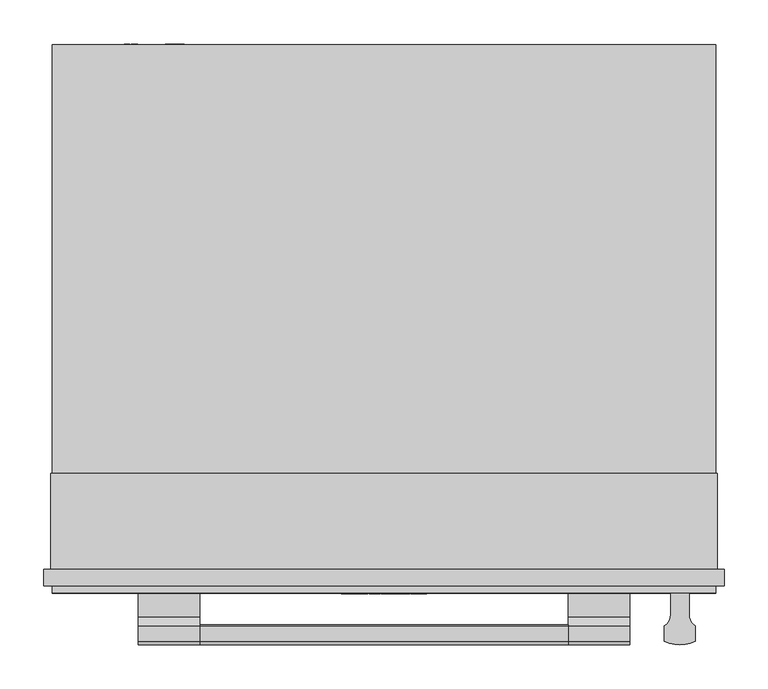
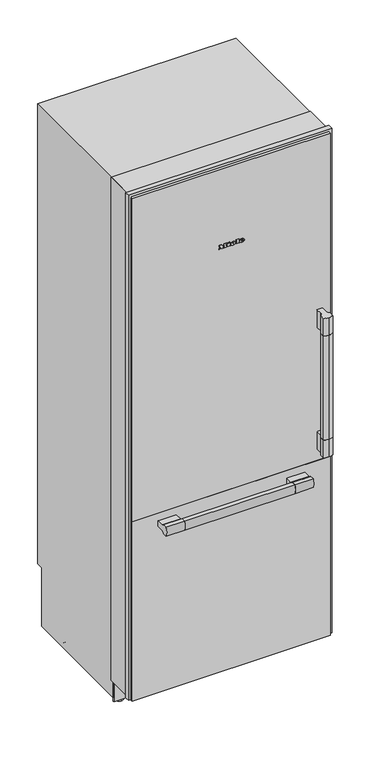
"""IFC4 building model written with IfcOpenShell, lengths in millimetres: proxy geometry, 10745800_USA_KF2811SF : 38281111_USA_10745800_KF2811SF."""

from ifc_helpers import new_model, si_unit, point, frame, frame_2d, origin, place, context, project, spatial, polyline, circle_curve, ellipse_curve, trimmed, segment, composite_curve, outline, extrude, faceted_brep, source, transform, mapped, element, save
from ifc_brep_helpers import plane_surface, cylinder_surface, revolved_surface, extruded_surface, advanced_brep


def specialty_equipment_4a33d1fb(model_context):
    return source(origin(), model_context, "Body", "SolidModel", [
        extrude(outline(polyline([(247.0, -133.0), (205.0, -133.0), (205.0, -118.5), (90.0, -118.5), (90.0, -105.5), (205.0, -105.5), (205.0, -91.0), (247.0, -91.0), (247.0, -133.0)])), frame((0.0, 21.0, 0.0), z_axis=(0.0, 1.0, 0.0), x_axis=(0.0, 0.0, 1.0)), (0.0, 0.0, 1.0), 54.0),
        extrude(outline(polyline([(-367.0, 68.0), (367.0, 68.0), (367.0, 21.0), (-367.0, 21.0), (-367.0, 68.0)])), frame((0.0, 0.0, 883.0), z_axis=(0.0, 0.0, 1.0), x_axis=(1.0, 0.0, 0.0)), (0.0, 0.0, 1.0), 1153.0),
        extrude(outline(polyline([(-373.0, 68.0), (373.0, 68.0), (373.0, 21.0), (-373.0, 21.0), (-373.0, 68.0)])), frame((0.0, 0.0, 247.0), z_axis=(0.0, 0.0, 1.0), x_axis=(1.0, 0.0, 0.0)), (0.0, 0.0, 1.0), 562.0),
        extrude(outline(polyline([(-213.5, 50.0), (213.5, 50.0), (213.5, 21.0), (-213.5, 21.0), (-213.5, 50.0)])), frame((0.0, 0.0, 2036.0), z_axis=(0.0, 0.0, 1.0), x_axis=(1.0, 0.0, 0.0)), (0.0, 0.0, 1.0), 56.0),
        extrude(outline(composite_curve([segment(trimmed(circle_curve(frame_2d((310.9285714, -24.4390599)), 15.5714286), [point((319.5, -37.4390599))], [point((326.5, -24.4390599))], True, "CARTESIAN"), True, "CONTINUOUS"), segment(polyline([(326.5, -24.4390599), (326.5, 0.0), (347.5, 0.0), (347.5, -24.4390599)]), True, "CONTINUOUS"), segment(trimmed(circle_curve(frame_2d((363.0714286, -24.4390599)), 15.5714286), [point((347.5, -24.4390599))], [point((354.5, -37.4390599))], True, "CARTESIAN"), True, "CONTINUOUS"), segment(polyline([(354.5, -37.4390599), (354.5, -55.0)]), True, "CONTINUOUS"), segment(trimmed(circle_curve(frame_2d((337.0, -18.71875)), 40.28125), [point((354.5, -55.0))], [point((337.0, -59.0))], False, "CARTESIAN"), True, "CONTINUOUS"), segment(trimmed(circle_curve(frame_2d((337.0, -18.71875)), 40.28125), [point((337.0, -59.0))], [point((319.5, -55.0))], False, "CARTESIAN"), True, "CONTINUOUS"), segment(polyline([(319.5, -55.0), (319.5, -37.4390599)]), True, "CONTINUOUS")], self_intersect=False)), frame((0.0, 0.0, 858.0), z_axis=(0.0, 0.0, 1.0), x_axis=(1.0, 0.0, 0.0)), (0.0, 0.0, 1.0), 70.0),
        extrude(outline(composite_curve([segment(trimmed(circle_curve(frame_2d((310.9285714, -24.4390599)), 15.5714286), [point((319.5, -37.4390599))], [point((326.5, -24.4390599))], True, "CARTESIAN"), True, "CONTINUOUS"), segment(polyline([(326.5, -24.4390599), (326.5, 0.0), (347.5, 0.0), (347.5, -24.4390599)]), True, "CONTINUOUS"), segment(trimmed(circle_curve(frame_2d((363.0714286, -24.4390599)), 15.5714286), [point((347.5, -24.4390599))], [point((354.5, -37.4390599))], True, "CARTESIAN"), True, "CONTINUOUS"), segment(polyline([(354.5, -37.4390599), (354.5, -55.0)]), True, "CONTINUOUS"), segment(trimmed(circle_curve(frame_2d((337.0, -18.71875)), 40.28125), [point((354.5, -55.0))], [point((337.0, -59.0))], False, "CARTESIAN"), True, "CONTINUOUS"), segment(trimmed(circle_curve(frame_2d((337.0, -18.71875)), 40.28125), [point((337.0, -59.0))], [point((319.5, -55.0))], False, "CARTESIAN"), True, "CONTINUOUS"), segment(polyline([(319.5, -55.0), (319.5, -37.4390599)]), True, "CONTINUOUS")], self_intersect=False)), frame((0.0, 0.0, 1348.0), z_axis=(0.0, 0.0, 1.0), x_axis=(1.0, 0.0, 0.0)), (0.0, 0.0, 1.0), 70.0),
        extrude(outline(polyline([(-378.0, 21.0), (378.0, 21.0), (378.0, 0.0), (-378.0, 0.0), (-378.0, 21.0)])), frame((0.0, 0.0, 812.0), z_axis=(0.0, 0.0, 1.0), x_axis=(1.0, 0.0, 0.0)), (0.0, 0.0, 1.0), 1299.0),
        extrude(outline(composite_curve([segment(trimmed(circle_curve(frame_2d((310.9285714, -24.4390599)), 15.5714286), [point((319.5, -37.4390599))], [point((321.3599688, -36.0))], True, "CARTESIAN"), True, "CONTINUOUS"), segment(polyline([(321.3599688, -36.0), (352.6400312, -36.0)]), True, "CONTINUOUS"), segment(trimmed(circle_curve(frame_2d((363.0714286, -24.4390599)), 15.5714286), [point((352.6400312, -36.0))], [point((354.5, -37.4390599))], True, "CARTESIAN"), True, "CONTINUOUS"), segment(polyline([(354.5, -37.4390599), (354.5, -55.0)]), True, "CONTINUOUS"), segment(trimmed(circle_curve(frame_2d((337.0, -18.71875)), 40.28125), [point((354.5, -55.0))], [point((337.0, -59.0))], False, "CARTESIAN"), True, "CONTINUOUS"), segment(trimmed(circle_curve(frame_2d((337.0, -18.71875)), 40.28125), [point((337.0, -59.0))], [point((319.5, -55.0))], False, "CARTESIAN"), True, "CONTINUOUS"), segment(polyline([(319.5, -55.0), (319.5, -37.4390599)]), True, "CONTINUOUS")], self_intersect=False)), frame((0.0, 0.0, 928.0), z_axis=(0.0, 0.0, 1.0), x_axis=(1.0, 0.0, 0.0)), (0.0, 0.0, 1.0), 420.0),
        advanced_brep(
        [(-210.0, -37.692095, 787.5), (-210.0, -55.0, 787.5), (-210.0, -59.0, 770.0), (-210.0, -55.0, 752.5), (-210.0, -37.692095, 752.5), (-210.0, -27.0, 759.5), (-210.0, 0.0, 759.5), (-210.0, 0.0, 780.5), (-210.0, -27.0, 780.5), (-280.0, 0.0, 780.5), (-280.0, 0.0, 759.5), (-280.0, -27.0, 759.5), (-280.0, -37.692095, 752.5), (-280.0, -55.0, 752.5), (-280.0, -59.0, 770.0), (-280.0, -55.0, 787.5), (-280.0, -37.692095, 787.5), (-280.0, -27.0, 780.5)],
        [
            (0, 1),
            (1, 2, circle_curve(frame((-210.0, -18.71875, 770.0), z_axis=(1.0, 0.0, 0.0), x_axis=(0.0, 0.0, 1.0)), 40.28125)),
            (2, 3, circle_curve(frame((-210.0, -18.71875, 770.0), z_axis=(1.0, 0.0, 0.0), x_axis=(0.0, 0.0, 1.0)), 40.28125)),
            (3, 4),
            (4, 5, circle_curve(frame((-210.0, -27.0, 747.8342217), z_axis=(-1.0, 0.0, 0.0), x_axis=(0.0, 0.0, 1.0)), 11.6657783)),
            (5, 6),
            (6, 7),
            (7, 8),
            (8, 0, circle_curve(frame((-210.0, -27.0, 792.1657783), z_axis=(-1.0, 0.0, 0.0), x_axis=(0.0, 0.0, 1.0)), 11.6657783)),
            (9, 10),
            (10, 11),
            (11, 12, circle_curve(frame((-280.0, -27.0, 747.8342217), z_axis=(1.0, 0.0, 0.0), x_axis=(0.0, 0.0, 1.0)), 11.6657783)),
            (12, 13),
            (13, 14, circle_curve(frame((-280.0, -18.71875, 770.0), z_axis=(-1.0, 0.0, 0.0), x_axis=(0.0, 0.0, 1.0)), 40.28125)),
            (14, 15, circle_curve(frame((-280.0, -18.71875, 770.0), z_axis=(-1.0, 0.0, 0.0), x_axis=(0.0, 0.0, 1.0)), 40.28125)),
            (15, 16),
            (16, 17, circle_curve(frame((-280.0, -27.0, 792.1657783), z_axis=(1.0, 0.0, 0.0), x_axis=(0.0, 0.0, 1.0)), 11.6657783)),
            (17, 9),
            (0, 16),
            (15, 1),
            (3, 13),
            (12, 4),
            (6, 10),
            (9, 7),
            (17, 8),
            (5, 11),
        ],
        [
            plane_surface(frame((-210.0, -59.0, 787.5), z_axis=(1.0, 0.0, 0.0), x_axis=(0.0, -1.0, 0.0))),
            plane_surface(frame((-280.0, -59.0, 787.5), z_axis=(-1.0, 0.0, 0.0), x_axis=(0.0, 1.0, 0.0))),
            plane_surface(frame((-210.0, 0.0, 787.5), z_axis=(0.0, 0.0, 1.0), x_axis=(-1.0, 0.0, 0.0))),
            plane_surface(frame((-210.0, -59.0, 752.5), z_axis=(0.0, 0.0, -1.0), x_axis=(-1.0, 0.0, 0.0))),
            plane_surface(frame((-210.0, 0.0, 752.5), z_axis=(0.0, 1.0, 0.0), x_axis=(-1.0, 0.0, 0.0))),
            plane_surface(frame((280.0, -27.0, 780.5), z_axis=(0.0, 0.0, 1.0), x_axis=(-1.0, 0.0, 0.0))),
            plane_surface(frame((280.0, 0.0, 759.5), z_axis=(0.0, 0.0, -1.0), x_axis=(-1.0, 0.0, 0.0))),
            revolved_surface(polyline([(-210.0, -27.0, 759.5), (-280.0, -27.0, 759.5)]), (-280.0, -27.0, 747.8342217), (1.0, 0.0, 0.0)),
            cylinder_surface(frame((-280.0, -18.71875, 770.0), z_axis=(-1.0, 0.0, 0.0), x_axis=(0.0, 0.0, 1.0)), 40.28125),
            revolved_surface(polyline([(-210.0, -27.0, 803.8315566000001), (-280.0, -27.0, 803.8315566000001)]), (-280.0, -27.0, 792.1657783), (1.0, 0.0, 0.0)),
        ],
        [
            (0, [[1, 2, 3, 4, 5, 6, 7, 8, 9]]),
            (1, [[10, 11, 12, 13, 14, 15, 16, 17, 18]]),
            (2, [[-1, 19, -16, 20]]),
            (3, [[-4, 21, -13, 22]]),
            (4, [[-7, 23, -10, 24]]),
            (5, [[25, -8, -24, -18]]),
            (6, [[26, -11, -23, -6]]),
            (7, [[-26, -5, -22, -12]]),
            (8, [[-2, -20, -15, -14, -21, -3]]),
            (9, [[-25, -17, -19, -9]]),
        ],
    ),
        advanced_brep(
        [(210.0, -37.692095, 787.5), (210.0, -55.0, 787.5), (210.0, -59.0, 770.0), (210.0, -55.0, 752.5), (210.0, -37.692095, 752.5), (210.0, -36.0, 755.2565113), (210.0, -36.0, 784.7434887), (-210.0, -37.692095, 752.5), (-210.0, -55.0, 752.5), (-210.0, -59.0, 770.0), (-210.0, -55.0, 787.5), (-210.0, -37.692095, 787.5), (-210.0, -36.0, 784.7434887), (-210.0, -36.0, 755.2565113)],
        [
            (0, 1),
            (1, 2, circle_curve(frame((210.0, -18.71875, 770.0), z_axis=(1.0, 0.0, 0.0), x_axis=(0.0, 0.0, 1.0)), 40.28125)),
            (2, 3, circle_curve(frame((210.0, -18.71875, 770.0), z_axis=(1.0, 0.0, 0.0), x_axis=(0.0, 0.0, 1.0)), 40.28125)),
            (3, 4),
            (4, 5, circle_curve(frame((210.0, -27.0, 747.8342217), z_axis=(-1.0, 0.0, 0.0), x_axis=(0.0, 0.0, 1.0)), 11.6657783)),
            (5, 6),
            (6, 0, circle_curve(frame((210.0, -27.0, 792.1657783), z_axis=(-1.0, 0.0, 0.0), x_axis=(0.0, 0.0, 1.0)), 11.6657783)),
            (7, 8),
            (8, 9, circle_curve(frame((-210.0, -18.71875, 770.0), z_axis=(-1.0, 0.0, 0.0), x_axis=(0.0, 0.0, 1.0)), 40.28125)),
            (9, 10, circle_curve(frame((-210.0, -18.71875, 770.0), z_axis=(-1.0, 0.0, 0.0), x_axis=(0.0, 0.0, 1.0)), 40.28125)),
            (10, 11),
            (11, 12, circle_curve(frame((-210.0, -27.0, 792.1657783), z_axis=(1.0, 0.0, 0.0), x_axis=(0.0, 0.0, 1.0)), 11.6657783)),
            (12, 13),
            (13, 7, circle_curve(frame((-210.0, -27.0, 747.8342217), z_axis=(1.0, 0.0, 0.0), x_axis=(0.0, 0.0, 1.0)), 11.6657783)),
            (0, 11),
            (10, 1),
            (3, 8),
            (7, 4),
            (13, 5),
            (6, 12),
        ],
        [
            plane_surface(frame((210.0, -59.0, 787.5), z_axis=(1.0, 0.0, 0.0), x_axis=(0.0, -1.0, 0.0))),
            plane_surface(frame((-210.0, -59.0, 787.5), z_axis=(-1.0, 0.0, 0.0), x_axis=(0.0, 1.0, 0.0))),
            plane_surface(frame((210.0, 0.0, 787.5), z_axis=(0.0, 0.0, 1.0), x_axis=(-1.0, 0.0, 0.0))),
            plane_surface(frame((210.0, -59.0, 752.5), z_axis=(0.0, 0.0, -1.0), x_axis=(-1.0, 0.0, 0.0))),
            revolved_surface(polyline([(210.0, -27.0, 759.5), (-210.0, -27.0, 759.5)]), (-280.0, -27.0, 747.8342217), (1.0, 0.0, 0.0)),
            cylinder_surface(frame((-280.0, -18.71875, 770.0), z_axis=(-1.0, 0.0, 0.0), x_axis=(0.0, 0.0, 1.0)), 40.28125),
            revolved_surface(polyline([(210.0, -27.0, 803.8315566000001), (-210.0, -27.0, 803.8315566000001)]), (-280.0, -27.0, 792.1657783), (1.0, 0.0, 0.0)),
            plane_surface(frame((210.0, -36.0, 788.0), z_axis=(0.0, 1.0, 0.0), x_axis=(-1.0, 0.0, 0.0))),
        ],
        [
            (0, [[1, 2, 3, 4, 5, 6, 7]]),
            (1, [[8, 9, 10, 11, 12, 13, 14]]),
            (2, [[-1, 15, -11, 16]]),
            (3, [[-4, 17, -8, 18]]),
            (4, [[-18, -14, 19, -5]]),
            (5, [[-2, -16, -10, -9, -17, -3]]),
            (6, [[-15, -7, 20, -12]]),
            (7, [[-6, -19, -13, -20]]),
        ],
    ),
        advanced_brep(
        [(280.0, -37.692095, 787.5), (280.0, -55.0, 787.5), (280.0, -59.0, 770.0), (280.0, -55.0, 752.5), (280.0, -37.692095, 752.5), (280.0, -27.0, 759.5), (280.0, 0.0, 759.5), (280.0, 0.0, 780.5), (280.0, -27.0, 780.5), (210.0, 0.0, 780.5), (210.0, 0.0, 759.5), (210.0, -27.0, 759.5), (210.0, -37.692095, 752.5), (210.0, -55.0, 752.5), (210.0, -59.0, 770.0), (210.0, -55.0, 787.5), (210.0, -37.692095, 787.5), (210.0, -27.0, 780.5)],
        [
            (0, 1),
            (1, 2, circle_curve(frame((280.0, -18.71875, 770.0), z_axis=(1.0, 0.0, 0.0), x_axis=(0.0, 0.0, 1.0)), 40.28125)),
            (2, 3, circle_curve(frame((280.0, -18.71875, 770.0), z_axis=(1.0, 0.0, 0.0), x_axis=(0.0, 0.0, 1.0)), 40.28125)),
            (3, 4),
            (4, 5, circle_curve(frame((280.0, -27.0, 747.8342217), z_axis=(-1.0, 0.0, 0.0), x_axis=(0.0, 0.0, 1.0)), 11.6657783)),
            (5, 6),
            (6, 7),
            (7, 8),
            (8, 0, circle_curve(frame((280.0, -27.0, 792.1657783), z_axis=(-1.0, 0.0, 0.0), x_axis=(0.0, 0.0, 1.0)), 11.6657783)),
            (9, 10),
            (10, 11),
            (11, 12, circle_curve(frame((210.0, -27.0, 747.8342217), z_axis=(1.0, 0.0, 0.0), x_axis=(0.0, 0.0, 1.0)), 11.6657783)),
            (12, 13),
            (13, 14, circle_curve(frame((210.0, -18.71875, 770.0), z_axis=(-1.0, 0.0, 0.0), x_axis=(0.0, 0.0, 1.0)), 40.28125)),
            (14, 15, circle_curve(frame((210.0, -18.71875, 770.0), z_axis=(-1.0, 0.0, 0.0), x_axis=(0.0, 0.0, 1.0)), 40.28125)),
            (15, 16),
            (16, 17, circle_curve(frame((210.0, -27.0, 792.1657783), z_axis=(1.0, 0.0, 0.0), x_axis=(0.0, 0.0, 1.0)), 11.6657783)),
            (17, 9),
            (0, 16),
            (15, 1),
            (3, 13),
            (12, 4),
            (6, 10),
            (9, 7),
            (17, 8),
            (5, 11),
        ],
        [
            plane_surface(frame((280.0, -59.0, 787.5), z_axis=(1.0, 0.0, 0.0), x_axis=(0.0, -1.0, 0.0))),
            plane_surface(frame((210.0, -59.0, 787.5), z_axis=(-1.0, 0.0, 0.0), x_axis=(0.0, 1.0, 0.0))),
            plane_surface(frame((280.0, 0.0, 787.5), z_axis=(0.0, 0.0, 1.0), x_axis=(-1.0, 0.0, 0.0))),
            plane_surface(frame((280.0, -59.0, 752.5), z_axis=(0.0, 0.0, -1.0), x_axis=(-1.0, 0.0, 0.0))),
            plane_surface(frame((280.0, 0.0, 752.5), z_axis=(0.0, 1.0, 0.0), x_axis=(-1.0, 0.0, 0.0))),
            plane_surface(frame((280.0, -27.0, 780.5), z_axis=(0.0, 0.0, 1.0), x_axis=(-1.0, 0.0, 0.0))),
            plane_surface(frame((280.0, 0.0, 759.5), z_axis=(0.0, 0.0, -1.0), x_axis=(-1.0, 0.0, 0.0))),
            revolved_surface(polyline([(280.0, -27.0, 759.5), (210.0, -27.0, 759.5)]), (-280.0, -27.0, 747.8342217), (1.0, 0.0, 0.0)),
            cylinder_surface(frame((-280.0, -18.71875, 770.0), z_axis=(-1.0, 0.0, 0.0), x_axis=(0.0, 0.0, 1.0)), 40.28125),
            revolved_surface(polyline([(280.0, -27.0, 803.8315566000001), (210.0, -27.0, 803.8315566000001)]), (-280.0, -27.0, 792.1657783), (1.0, 0.0, 0.0)),
        ],
        [
            (0, [[1, 2, 3, 4, 5, 6, 7, 8, 9]]),
            (1, [[10, 11, 12, 13, 14, 15, 16, 17, 18]]),
            (2, [[-1, 19, -16, 20]]),
            (3, [[-4, 21, -13, 22]]),
            (4, [[-7, 23, -10, 24]]),
            (5, [[25, -8, -24, -18]]),
            (6, [[26, -11, -23, -6]]),
            (7, [[-26, -5, -22, -12]]),
            (8, [[-2, -20, -15, -14, -21, -3]]),
            (9, [[-25, -17, -19, -9]]),
        ],
    ),
        extrude(outline(polyline([(-378.0, 21.0), (378.0, 21.0), (378.0, 0.0), (-378.0, 0.0), (-378.0, 21.0)])), frame((0.0, 0.0, 90.0), z_axis=(0.0, 0.0, 1.0), x_axis=(1.0, 0.0, 0.0)), (0.0, 0.0, 1.0), 721.0),
        advanced_brep(
        [(38.22, -1.0, 1795.792), (38.22, -1.0, 1797.408), (48.924, -1.0, 1797.408), (30.3, -1.0, 1797.408), (34.7, -1.0, 1792.0), (48.652, -1.0, 1795.792), (43.82, -1.0, 1795.792), (40.012, -1.0, 1794.0), (38.22, -1.0, 1799.456), (38.22, -1.0, 1801.2), (40.956, -1.0, 1801.2), (40.956, -1.0, 1799.456), (38.22, 0.0, 1795.792), (40.012, 0.0, 1794.0), (43.82, 0.0, 1795.792), (48.652, 0.0, 1795.792), (34.7, 0.0, 1792.0), (30.3, 0.0, 1797.408), (48.924, 0.0, 1797.408), (38.22, 0.0, 1797.408), (38.22, 0.0, 1799.456), (40.956, 0.0, 1799.456), (40.956, 0.0, 1801.2), (38.22, 0.0, 1801.2)],
        [
            (0, 1),
            (1, 2),
            (2, 3, ellipse_curve(frame((39.612, -1.0, 1797.408), z_axis=(0.0, -1.0, 0.0), x_axis=(-1.0, 0.0, 0.0)), 9.312, 7.696)),
            (3, 4, circle_curve(frame((36.4920873, -1.0, 1797.952), z_axis=(0.0, -1.0, 0.0), x_axis=(0.0, 0.0, -1.0)), 6.2159376)),
            (4, 5, circle_curve(frame((39.4255872, -1.0, 1802.176), z_axis=(0.0, -1.0, 0.0), x_axis=(0.0, 0.0, -1.0)), 11.2197215)),
            (5, 6),
            (6, 7, circle_curve(frame((40.7941176, -1.0, 1797.28), z_axis=(0.0, 1.0, 0.0), x_axis=(0.0, 0.0, -1.0)), 3.3719591)),
            (7, 0, circle_curve(frame((40.012, -1.0, 1795.792), z_axis=(0.0, 1.0, 0.0), x_axis=(0.0, 0.0, -1.0)), 1.792)),
            (8, 9),
            (9, 10, circle_curve(frame((39.588, -1.0, 1801.2), z_axis=(0.0, 1.0, 0.0), x_axis=(0.0, 0.0, -1.0)), 1.368)),
            (10, 11),
            (11, 8),
            (12, 13, circle_curve(frame((40.012, 0.0, 1795.792), z_axis=(0.0, -1.0, 0.0), x_axis=(0.0, 0.0, -1.0)), 1.792)),
            (13, 14, circle_curve(frame((40.7941176, 0.0, 1797.28), z_axis=(0.0, -1.0, 0.0), x_axis=(0.0, 0.0, -1.0)), 3.3719591)),
            (14, 15),
            (15, 16, circle_curve(frame((39.4255872, 0.0, 1802.176), z_axis=(0.0, 1.0, 0.0), x_axis=(0.0, 0.0, -1.0)), 11.2197215)),
            (16, 17, circle_curve(frame((36.4920873, 0.0, 1797.952), z_axis=(0.0, 1.0, 0.0), x_axis=(0.0, 0.0, -1.0)), 6.2159376)),
            (17, 18, ellipse_curve(frame((39.612, 0.0, 1797.408), z_axis=(0.0, 1.0, 0.0), x_axis=(-1.0, 0.0, 0.0)), 9.312, 7.696)),
            (18, 19),
            (19, 12),
            (20, 21),
            (21, 22),
            (22, 23, circle_curve(frame((39.588, 0.0, 1801.2), z_axis=(0.0, -1.0, 0.0), x_axis=(0.0, 0.0, -1.0)), 1.368)),
            (23, 20),
            (0, 12),
            (19, 1),
            (18, 2),
            (5, 15),
            (14, 6),
            (17, 3),
            (13, 7),
            (16, 4),
            (8, 20),
            (23, 9),
            (22, 10),
            (21, 11),
        ],
        [
            plane_surface(frame((38.22, -1.0, 1797.408), z_axis=(0.0, -1.0, 0.0), x_axis=(0.0, 0.0, 1.0))),
            plane_surface(frame((38.22, 0.0, 1797.408), z_axis=(0.0, 1.0, 0.0), x_axis=(0.0, 0.0, -1.0))),
            plane_surface(frame((38.22, -1.0, 1795.792), z_axis=(1.0, 0.0, 0.0), x_axis=(0.0, 1.0, 0.0))),
            plane_surface(frame((38.22, -1.0, 1797.408), z_axis=(0.0, 0.0, -1.0), x_axis=(0.0, 1.0, 0.0))),
            plane_surface(frame((48.652, -1.0, 1795.792), z_axis=(0.0, 0.0, 1.0), x_axis=(0.0, 1.0, 0.0))),
            extruded_surface(trimmed(ellipse_curve(frame((39.612, 1.0, 1797.408), z_axis=(0.0, -1.0, 0.0), x_axis=(-1.0, 0.0, 0.0)), 9.312, 7.696), [point((48.924, 1.0, 1797.408))], [point((30.3, 1.0, 1797.408))], True, "CARTESIAN"), (0.0, -1.0, 0.0), 1.0),
            revolved_surface(polyline([(40.7941176, 0.0, 1793.9080409), (40.7941176, -1.0, 1793.9080409)]), (40.7941176, 0.0, 1797.28), (0.0, 1.0, 0.0)),
            revolved_surface(polyline([(40.012, 0.0, 1794.0), (40.012, -1.0, 1794.0)]), (40.012, 0.0, 1795.792), (0.0, 1.0, 0.0)),
            cylinder_surface(frame((36.4920873, 0.0, 1797.952), z_axis=(0.0, -1.0, 0.0), x_axis=(0.0, 0.0, -1.0)), 6.2159376),
            cylinder_surface(frame((39.4255872, 0.0, 1802.176), z_axis=(0.0, -1.0, 0.0), x_axis=(0.0, 0.0, -1.0)), 11.2197215),
            plane_surface(frame((38.22, -1.0, 1799.456), z_axis=(1.0, 0.0, 0.0), x_axis=(0.0, 1.0, 0.0))),
            revolved_surface(polyline([(39.588, 0.0, 1799.832), (39.588, -1.0, 1799.832)]), (39.588, 0.0, 1801.2), (0.0, 1.0, 0.0)),
            plane_surface(frame((40.956, -1.0, 1801.2), z_axis=(-1.0, 0.0, 0.0), x_axis=(0.0, 1.0, 0.0))),
            plane_surface(frame((40.956, -1.0, 1799.456), z_axis=(0.0, 0.0, 1.0), x_axis=(0.0, 1.0, 0.0))),
        ],
        [
            (0, [[1, 2, 3, 4, 5, 6, 7, 8], [9, 10, 11, 12]]),
            (1, [[13, 14, 15, 16, 17, 18, 19, 20], [21, 22, 23, 24]]),
            (2, [[-1, 25, -20, 26]]),
            (3, [[-2, -26, -19, 27]]),
            (4, [[-6, 28, -15, 29]]),
            (5, [[-3, -27, -18, 30]]),
            (6, [[-7, -29, -14, 31]]),
            (7, [[-8, -31, -13, -25]]),
            (8, [[-4, -30, -17, 32]]),
            (9, [[-5, -32, -16, -28]]),
            (10, [[-9, 33, -24, 34]]),
            (11, [[-10, -34, -23, 35]]),
            (12, [[-11, -35, -22, 36]]),
            (13, [[-12, -36, -21, -33]]),
        ],
    ),
        advanced_brep(
        [(4.828, -1.0, 1795.792), (4.828, -1.0, 1797.408), (15.532, -1.0, 1797.408), (-3.092, -1.0, 1797.408), (1.308, -1.0, 1792.0), (15.26, -1.0, 1795.792), (10.428, -1.0, 1795.792), (6.62, -1.0, 1794.0), (4.828, -1.0, 1799.456), (4.828, -1.0, 1801.2), (7.564, -1.0, 1801.2), (7.564, -1.0, 1799.456), (4.828, 0.0, 1795.792), (6.62, 0.0, 1794.0), (10.428, 0.0, 1795.792), (15.26, 0.0, 1795.792), (1.308, 0.0, 1792.0), (-3.092, 0.0, 1797.408), (15.532, 0.0, 1797.408), (4.828, 0.0, 1797.408), (4.828, 0.0, 1799.456), (7.564, 0.0, 1799.456), (7.564, 0.0, 1801.2), (4.828, 0.0, 1801.2)],
        [
            (0, 1),
            (1, 2),
            (2, 3, ellipse_curve(frame((6.22, -1.0, 1797.408), z_axis=(0.0, -1.0, 0.0), x_axis=(-1.0, 0.0, 0.0)), 9.312, 7.696)),
            (3, 4, circle_curve(frame((3.1000873, -1.0, 1797.952), z_axis=(0.0, -1.0, 0.0), x_axis=(0.0, 0.0, -1.0)), 6.2159376)),
            (4, 5, circle_curve(frame((6.0335872, -1.0, 1802.176), z_axis=(0.0, -1.0, 0.0), x_axis=(0.0, 0.0, -1.0)), 11.2197215)),
            (5, 6),
            (6, 7, circle_curve(frame((7.4021176, -1.0, 1797.28), z_axis=(0.0, 1.0, 0.0), x_axis=(0.0, 0.0, -1.0)), 3.3719591)),
            (7, 0, circle_curve(frame((6.62, -1.0, 1795.792), z_axis=(0.0, 1.0, 0.0), x_axis=(0.0, 0.0, -1.0)), 1.792)),
            (8, 9),
            (9, 10, circle_curve(frame((6.196, -1.0, 1801.2), z_axis=(0.0, 1.0, 0.0), x_axis=(0.0, 0.0, -1.0)), 1.368)),
            (10, 11),
            (11, 8),
            (12, 13, circle_curve(frame((6.62, 0.0, 1795.792), z_axis=(0.0, -1.0, 0.0), x_axis=(0.0, 0.0, -1.0)), 1.792)),
            (13, 14, circle_curve(frame((7.4021176, 0.0, 1797.28), z_axis=(0.0, -1.0, 0.0), x_axis=(0.0, 0.0, -1.0)), 3.3719591)),
            (14, 15),
            (15, 16, circle_curve(frame((6.0335872, 0.0, 1802.176), z_axis=(0.0, 1.0, 0.0), x_axis=(0.0, 0.0, -1.0)), 11.2197215)),
            (16, 17, circle_curve(frame((3.1000873, 0.0, 1797.952), z_axis=(0.0, 1.0, 0.0), x_axis=(0.0, 0.0, -1.0)), 6.2159376)),
            (17, 18, ellipse_curve(frame((6.22, 0.0, 1797.408), z_axis=(0.0, 1.0, 0.0), x_axis=(-1.0, 0.0, 0.0)), 9.312, 7.696)),
            (18, 19),
            (19, 12),
            (20, 21),
            (21, 22),
            (22, 23, circle_curve(frame((6.196, 0.0, 1801.2), z_axis=(0.0, -1.0, 0.0), x_axis=(0.0, 0.0, -1.0)), 1.368)),
            (23, 20),
            (0, 12),
            (19, 1),
            (18, 2),
            (5, 15),
            (14, 6),
            (17, 3),
            (13, 7),
            (16, 4),
            (8, 20),
            (23, 9),
            (22, 10),
            (21, 11),
        ],
        [
            plane_surface(frame((4.828, -1.0, 1797.408), z_axis=(0.0, -1.0, 0.0), x_axis=(0.0, 0.0, 1.0))),
            plane_surface(frame((4.828, 0.0, 1797.408), z_axis=(0.0, 1.0, 0.0), x_axis=(0.0, 0.0, -1.0))),
            plane_surface(frame((4.828, -1.0, 1795.792), z_axis=(1.0, 0.0, 0.0), x_axis=(0.0, 1.0, 0.0))),
            plane_surface(frame((4.828, -1.0, 1797.408), z_axis=(0.0, 0.0, -1.0), x_axis=(0.0, 1.0, 0.0))),
            plane_surface(frame((15.26, -1.0, 1795.792), z_axis=(0.0, 0.0, 1.0), x_axis=(0.0, 1.0, 0.0))),
            extruded_surface(trimmed(ellipse_curve(frame((6.22, 1.0, 1797.408), z_axis=(0.0, -1.0, 0.0), x_axis=(-1.0, 0.0, 0.0)), 9.312, 7.696), [point((15.532, 1.0, 1797.408))], [point((-3.092, 1.0, 1797.408))], True, "CARTESIAN"), (0.0, -1.0, 0.0), 1.0),
            revolved_surface(polyline([(7.4021176, 0.0, 1793.9080409), (7.4021176, -1.0, 1793.9080409)]), (7.4021176, 0.0, 1797.28), (0.0, 1.0, 0.0)),
            revolved_surface(polyline([(6.62, 0.0, 1794.0), (6.62, -1.0, 1794.0)]), (6.62, 0.0, 1795.792), (0.0, 1.0, 0.0)),
            cylinder_surface(frame((3.1000873, 0.0, 1797.952), z_axis=(0.0, -1.0, 0.0), x_axis=(0.0, 0.0, -1.0)), 6.2159376),
            cylinder_surface(frame((6.0335872, 0.0, 1802.176), z_axis=(0.0, -1.0, 0.0), x_axis=(0.0, 0.0, -1.0)), 11.2197215),
            plane_surface(frame((4.828, -1.0, 1799.456), z_axis=(1.0, 0.0, 0.0), x_axis=(0.0, 1.0, 0.0))),
            revolved_surface(polyline([(6.196, 0.0, 1799.832), (6.196, -1.0, 1799.832)]), (6.196, 0.0, 1801.2), (0.0, 1.0, 0.0)),
            plane_surface(frame((7.564, -1.0, 1801.2), z_axis=(-1.0, 0.0, 0.0), x_axis=(0.0, 1.0, 0.0))),
            plane_surface(frame((7.564, -1.0, 1799.456), z_axis=(0.0, 0.0, 1.0), x_axis=(0.0, 1.0, 0.0))),
        ],
        [
            (0, [[1, 2, 3, 4, 5, 6, 7, 8], [9, 10, 11, 12]]),
            (1, [[13, 14, 15, 16, 17, 18, 19, 20], [21, 22, 23, 24]]),
            (2, [[-1, 25, -20, 26]]),
            (3, [[-2, -26, -19, 27]]),
            (4, [[-6, 28, -15, 29]]),
            (5, [[-3, -27, -18, 30]]),
            (6, [[-7, -29, -14, 31]]),
            (7, [[-8, -31, -13, -25]]),
            (8, [[-4, -30, -17, 32]]),
            (9, [[-5, -32, -16, -28]]),
            (10, [[-9, 33, -24, 34]]),
            (11, [[-10, -34, -23, 35]]),
            (12, [[-11, -35, -22, 36]]),
            (13, [[-12, -36, -21, -33]]),
        ],
    ),
        extrude(outline(polyline([(1807.056, -12.66), (1804.464, -11.444), (1806.992, -6.02), (1809.584, -7.22), (1807.056, -12.66)])), frame((0.0, -1.0, 0.0), z_axis=(0.0, 1.0, 0.0), x_axis=(0.0, 0.0, 1.0)), (0.0, 0.0, 1.0), 1.0),
        extrude(outline(polyline([(1804.112, -16.612), (1801.248, -16.612), (1801.248, -14.708), (1794.688, -14.708), (1794.688, -16.612), (1792.0, -16.612), (1792.0, -3.988), (1794.688, -3.988), (1794.688, -5.844), (1804.112, -5.844), (1804.112, -16.612)])), frame((0.0, -1.0, 0.0), z_axis=(0.0, 1.0, 0.0), x_axis=(0.0, 0.0, 1.0)), (0.0, 0.0, 1.0), 1.0),
        extrude(outline(polyline([(1805.392, 16.428), (1805.392, 18.348), (1794.688, 18.348), (1794.688, 16.428), (1792.0, 16.428), (1792.0, 29.404), (1794.688, 29.404), (1794.688, 27.436), (1808.0, 27.436), (1808.0, 16.428), (1805.392, 16.428)])), frame((0.0, -1.0, 0.0), z_axis=(0.0, 1.0, 0.0), x_axis=(0.0, 0.0, 1.0)), (0.0, 0.0, 1.0), 1.0),
        extrude(outline(polyline([(1805.392, -48.5), (1805.392, -46.564), (1794.688, -46.564), (1794.688, -48.5), (1792.0, -48.5), (1792.0, -41.46), (1794.688, -41.46), (1794.688, -43.38), (1801.4431247, -43.38), (1792.0, -36.228), (1801.8152223, -29.044), (1794.688, -29.044), (1794.688, -31.012), (1792.0, -31.012), (1792.0, -18.244), (1794.688, -18.244), (1794.688, -20.276), (1805.392, -20.276), (1805.392, -18.244), (1808.0, -18.244), (1808.0, -27.988), (1802.0, -32.66), (1808.0, -37.348), (1808.0, -48.5), (1805.392, -48.5)])), frame((0.0, -1.0, 0.0), z_axis=(0.0, 1.0, 0.0), x_axis=(0.0, 0.0, 1.0)), (0.0, 0.0, 1.0), 1.0),
        extrude(outline(polyline([(201.5, 1973.4), (238.625, 1914.0), (237.4457524, 1914.0), (200.3207524, 1973.4), (201.5, 1973.4)])), frame((-69.0, 0.0, 0.0), z_axis=(1.0, 0.0, 0.0), x_axis=(0.0, 1.0, 0.0)), (0.0, 0.0, 1.0), 138.0),
        extrude(outline(polyline([(565.0, 1998.0), (565.0, 1796.0), (495.0, 1796.0), (454.0, 1907.0), (243.0, 1907.0), (198.0, 1979.0), (150.0, 1998.0), (565.0, 1998.0)])), frame((-332.0, 0.0, 0.0), z_axis=(1.0, 0.0, 0.0), x_axis=(0.0, 1.0, 0.0)), (0.0, 0.0, 1.0), 664.0),
        extrude(outline(polyline([(-332.0, 565.0), (332.0, 565.0), (332.0, 540.0), (-332.0, 540.0), (-332.0, 565.0)])), frame((0.0, 0.0, 303.0), z_axis=(0.0, 0.0, 1.0), x_axis=(1.0, 0.0, 0.0)), (0.0, 0.0, 1.0), 467.0),
        extrude(outline(polyline([(-332.0, 565.0), (332.0, 565.0), (332.0, 68.0), (-332.0, 68.0), (-332.0, 565.0)])), frame((0.0, 0.0, 770.0), z_axis=(0.0, 0.0, 1.0), x_axis=(1.0, 0.0, 0.0)), (0.0, 0.0, 1.0), 144.0),
        extrude(outline(polyline([(46.0510837, -237.101717), (37.4134902, -239.1745179), (46.0453554, -241.6868463), (46.0453554, -243.5601414), (37.4089549, -246.0799633), (46.0493903, -248.1581876), (46.0493903, -249.4649805), (36.0005458, -246.7156324), (36.0005458, -245.372208), (44.8261022, -242.6342221), (35.9987467, -240.0620509), (35.9987287, -238.5451466), (46.0510837, -235.800191), (46.0510837, -237.101717)])), frame((0.0, 625.0, 0.0), z_axis=(0.0, 1.0, 0.0), x_axis=(0.0, 0.0, 1.0)), (0.0, 0.0, 1.0), 1.0),
        extrude(outline(polyline([(46.0485238, -228.7401503), (41.1363122, -228.7401503), (46.0468162, -233.884602), (46.0468162, -235.6328316), (41.9156889, -231.3260313), (36.000035, -235.8032231), (36.000035, -234.2795519), (41.0742849, -230.4391666), (39.4525334, -228.7395503), (35.9999292, -228.7395503), (35.9999292, -227.4795491), (46.0485238, -227.4795491), (46.0485238, -228.7401503)])), frame((0.0, 625.0, 0.0), z_axis=(0.0, 1.0, 0.0), x_axis=(0.0, 0.0, 1.0)), (0.0, 0.0, 1.0), 1.0),
        extrude(outline(composite_curve([segment(trimmed(circle_curve(frame_2d((41.0, -238.0)), 7.5), [point((33.5, -238.0))], [point((48.5, -238.0))], False, "CARTESIAN"), True, "CONTINUOUS"), segment(trimmed(circle_curve(frame_2d((41.0, -238.0)), 7.5), [point((48.5, -238.0))], [point((33.5, -238.0))], False, "CARTESIAN"), True, "CONTINUOUS")], self_intersect=False)), frame((0.0, 598.0, 0.0), z_axis=(0.0, 1.0, 0.0), x_axis=(0.0, 0.0, 1.0)), (0.0, 0.0, 1.0), 27.0),
        extrude(outline(polyline([(2095.0, -371.5), (2047.0, -371.5), (2047.0, -337.5), (2036.5, -337.5), (2036.5, -222.5), (2047.0, -222.5), (2047.0, -216.5), (2095.0, -216.5), (2095.0, -371.5)])), frame((0.0, 21.0, 0.0), z_axis=(0.0, 1.0, 0.0), x_axis=(0.0, 0.0, 1.0)), (0.0, 0.0, 1.0), 47.0),
        extrude(outline(polyline([(871.0, -371.5), (823.0, -371.5), (823.0, -216.5), (871.0, -216.5), (871.0, -222.5), (881.0, -222.5), (881.0, -337.5), (871.0, -337.5), (871.0, -371.5)])), frame((0.0, 21.0, 0.0), z_axis=(0.0, 1.0, 0.0), x_axis=(0.0, 0.0, 1.0)), (0.0, 0.0, 1.0), 47.0),
        extrude(outline(polyline([(99.0373308, -287.7645771), (97.7615342, -287.7645771), (97.7615342, -281.8195541), (94.7968516, -281.8195541), (94.7968516, -287.469579), (93.5246295, -287.469579), (93.5246295, -281.8415693), (90.2570046, -281.8415693), (90.2570046, -287.9619689), (88.9546219, -287.9619689), (88.9546219, -280.5443524), (99.0373308, -280.5443524), (99.0373308, -287.7645771)])), frame((0.0, 625.0, 0.0), z_axis=(0.0, 1.0, 0.0), x_axis=(0.0, 0.0, 1.0)), (0.0, 0.0, 1.0), 1.0),
        extrude(outline(polyline([(99.0458, -291.0619704), (90.2663944, -291.0619704), (90.2663944, -296.1145879), (89.0134802, -296.1145879), (89.0134802, -289.8423809), (99.0458, -289.8423809), (99.0458, -291.0619704)])), frame((0.0, 625.0, 0.0), z_axis=(0.0, 1.0, 0.0), x_axis=(0.0, 0.0, 1.0)), (0.0, 0.0, 1.0), 1.0),
        extrude(outline(composite_curve([segment(trimmed(circle_curve(frame_2d((94.0, -288.0)), 7.5), [point((86.5, -288.0))], [point((101.5, -288.0))], False, "CARTESIAN"), True, "CONTINUOUS"), segment(trimmed(circle_curve(frame_2d((94.0, -288.0)), 7.5), [point((101.5, -288.0))], [point((86.5, -288.0))], False, "CARTESIAN"), True, "CONTINUOUS")], self_intersect=False)), frame((0.0, 598.0, 0.0), z_axis=(0.0, 1.0, 0.0), x_axis=(0.0, 0.0, 1.0)), (0.0, 0.0, 1.0), 27.0),
        extrude(outline(polyline([(-378.0, 125.0), (378.0, 125.0), (378.0, 120.0), (-378.0, 120.0), (-378.0, 125.0)])), frame((0.0, 0.0, 14.0), z_axis=(0.0, 0.0, 1.0), x_axis=(1.0, 0.0, 0.0)), (0.0, 0.0, 1.0), 83.0),
        advanced_brep(
        [(-344.0, 160.0, 0.0), (-344.0, 130.0, 0.0), (-344.0, 160.0, 7.0), (-344.0, 130.0, 7.0), (-344.0, 149.7, 7.0), (-344.0, 140.3, 7.0), (-344.0, 149.7, 28.0), (-344.0, 140.3, 28.0)],
        [
            (0, 1, circle_curve(frame((-344.0, 145.0, 0.0), z_axis=(0.0, 0.0, -1.0), x_axis=(1.0, 0.0, 0.0)), 15.0)),
            (1, 0, circle_curve(frame((-344.0, 145.0, 0.0), z_axis=(0.0, 0.0, -1.0), x_axis=(1.0, 0.0, 0.0)), 15.0)),
            (2, 3, circle_curve(frame((-344.0, 145.0, 7.0), z_axis=(0.0, 0.0, 1.0), x_axis=(1.0, 0.0, 0.0)), 15.0)),
            (3, 2, circle_curve(frame((-344.0, 145.0, 7.0), z_axis=(0.0, 0.0, 1.0), x_axis=(1.0, 0.0, 0.0)), 15.0)),
            (4, 5, circle_curve(frame((-344.0, 145.0, 7.0), z_axis=(0.0, 0.0, -1.0), x_axis=(0.0, -1.0, 0.0)), 4.7)),
            (5, 4, circle_curve(frame((-344.0, 145.0, 7.0), z_axis=(0.0, 0.0, -1.0), x_axis=(0.0, -1.0, 0.0)), 4.7)),
            (0, 2),
            (3, 1),
            (6, 7, circle_curve(frame((-344.0, 145.0, 28.0), z_axis=(0.0, 0.0, 1.0), x_axis=(0.0, -1.0, 0.0)), 4.7)),
            (7, 6, circle_curve(frame((-344.0, 145.0, 28.0), z_axis=(0.0, 0.0, 1.0), x_axis=(0.0, -1.0, 0.0)), 4.7)),
            (7, 5),
            (4, 6),
        ],
        [
            plane_surface(frame((-329.0, 145.0, 0.0), z_axis=(0.0, 0.0, -1.0), x_axis=(0.0, -1.0, 0.0))),
            plane_surface(frame((-329.0, 145.0, 7.0), z_axis=(0.0, 0.0, 1.0), x_axis=(0.0, 1.0, 0.0))),
            cylinder_surface(frame((-344.0, 145.0, 7.0), z_axis=(0.0, 0.0, -1.0), x_axis=(1.0, 0.0, 0.0)), 15.0),
            plane_surface(frame((-344.0, 140.3, 28.0), z_axis=(0.0, 0.0, 1.0), x_axis=(1.0, 0.0, 0.0))),
            cylinder_surface(frame((-344.0, 145.0, 28.0), z_axis=(0.0, 0.0, -1.0), x_axis=(0.0, -1.0, 0.0)), 4.7),
        ],
        [
            (0, [[1, 2]]),
            (1, [[3, 4], [5, 6]]),
            (2, [[-1, 7, -4, 8]]),
            (2, [[-2, -8, -3, -7]]),
            (3, [[9, 10]]),
            (4, [[-10, 11, -5, 12]]),
            (4, [[-9, -12, -6, -11]]),
        ],
    ),
        advanced_brep(
        [(344.0, 160.0, 0.0), (344.0, 130.0, 0.0), (344.0, 160.0, 7.0), (344.0, 130.0, 7.0), (344.0, 149.7, 7.0), (344.0, 140.3, 7.0), (344.0, 149.7, 28.0), (344.0, 140.3, 28.0)],
        [
            (0, 1, circle_curve(frame((344.0, 145.0, 0.0), z_axis=(0.0, 0.0, -1.0), x_axis=(1.0, 0.0, 0.0)), 15.0)),
            (1, 0, circle_curve(frame((344.0, 145.0, 0.0), z_axis=(0.0, 0.0, -1.0), x_axis=(1.0, 0.0, 0.0)), 15.0)),
            (2, 3, circle_curve(frame((344.0, 145.0, 7.0), z_axis=(0.0, 0.0, 1.0), x_axis=(1.0, 0.0, 0.0)), 15.0)),
            (3, 2, circle_curve(frame((344.0, 145.0, 7.0), z_axis=(0.0, 0.0, 1.0), x_axis=(1.0, 0.0, 0.0)), 15.0)),
            (4, 5, circle_curve(frame((344.0, 145.0, 7.0), z_axis=(0.0, 0.0, -1.0), x_axis=(0.0, -1.0, 0.0)), 4.7)),
            (5, 4, circle_curve(frame((344.0, 145.0, 7.0), z_axis=(0.0, 0.0, -1.0), x_axis=(0.0, -1.0, 0.0)), 4.7)),
            (0, 2),
            (3, 1),
            (6, 7, circle_curve(frame((344.0, 145.0, 28.0), z_axis=(0.0, 0.0, 1.0), x_axis=(0.0, -1.0, 0.0)), 4.7)),
            (7, 6, circle_curve(frame((344.0, 145.0, 28.0), z_axis=(0.0, 0.0, 1.0), x_axis=(0.0, -1.0, 0.0)), 4.7)),
            (7, 5),
            (4, 6),
        ],
        [
            plane_surface(frame((-329.0, 145.0, 0.0), z_axis=(0.0, 0.0, -1.0), x_axis=(0.0, -1.0, 0.0))),
            plane_surface(frame((-329.0, 145.0, 7.0), z_axis=(0.0, 0.0, 1.0), x_axis=(0.0, 1.0, 0.0))),
            cylinder_surface(frame((344.0, 145.0, 7.0), z_axis=(0.0, 0.0, -1.0), x_axis=(1.0, 0.0, 0.0)), 15.0),
            plane_surface(frame((-344.0, 140.3, 28.0), z_axis=(0.0, 0.0, 1.0), x_axis=(1.0, 0.0, 0.0))),
            cylinder_surface(frame((344.0, 145.0, 28.0), z_axis=(0.0, 0.0, -1.0), x_axis=(0.0, -1.0, 0.0)), 4.7),
        ],
        [
            (0, [[1, 2]]),
            (1, [[3, 4], [5, 6]]),
            (2, [[-1, 7, -4, 8]]),
            (2, [[-2, -8, -3, -7]]),
            (3, [[9, 10]]),
            (4, [[-10, 11, -5, 12]]),
            (4, [[-9, -12, -6, -11]]),
        ],
    ),
        advanced_brep(
        [(378.0, 68.0, 2114.0), (378.0, 68.0, 267.0), (378.0, 75.0, 267.0), (378.0, 75.0, 97.0), (378.0, 125.0, 97.0), (378.0, 125.0, 28.0), (378.0, 598.0, 28.0), (378.0, 598.0, 263.0), (378.0, 625.0, 263.0), (378.0, 625.0, 2114.0), (-378.0, 68.0, 2114.0), (-378.0, 625.0, 2114.0), (-378.0, 625.0, 263.0), (-378.0, 598.0, 263.0), (-378.0, 598.0, 28.0), (-378.0, 125.0, 28.0), (-378.0, 125.0, 97.0), (-378.0, 75.0, 97.0), (-378.0, 75.0, 267.0), (-378.0, 68.0, 267.0), (318.0, 598.0, 28.0), (318.0, 598.0, 14.0), (-318.0, 598.0, 14.0), (-318.0, 598.0, 28.0), (318.0, 125.0, 14.0), (-318.0, 125.0, 14.0), (-318.0, 125.0, 28.0), (318.0, 125.0, 28.0), (332.0, 68.0, 1998.0), (332.0, 68.0, 303.0), (-332.0, 68.0, 303.0), (-332.0, 68.0, 1998.0), (332.0, 565.0, 1998.0), (-332.0, 565.0, 1998.0), (-332.0, 565.0, 303.0), (332.0, 565.0, 303.0), (-336.5, 223.8193473, 28.0), (-355.5, 223.8193473, 28.0), (-355.5, 174.1806527, 28.0), (-336.5, 174.1806527, 28.0), (-356.0, 546.8193473, 28.0), (-356.0, 497.1806527, 28.0), (-340.0, 497.1806527, 28.0), (-340.0, 546.8193473, 28.0), (355.5, 174.1806527, 28.0), (355.5, 223.8193473, 28.0), (336.5, 223.8193473, 28.0), (336.5, 174.1806527, 28.0), (340.0, 546.8193473, 28.0), (340.0, 497.1806527, 28.0), (356.0, 497.1806527, 28.0), (356.0, 546.8193473, 28.0), (-336.5, 224.0, 25.0), (-336.5, 174.0, 25.0), (-355.5, 174.0, 25.0), (-355.5, 224.0, 25.0), (-336.5, 199.0, 25.0), (-355.5, 199.0, 25.0), (355.5, 199.0, 25.0), (355.5, 174.0, 25.0), (355.5, 224.0, 25.0), (336.5, 224.0, 25.0), (336.5, 174.0, 25.0), (336.5, 199.0, 25.0), (-356.0, 547.0, 25.0), (-356.0, 497.0, 25.0), (-356.0, 522.0, 25.0), (-340.0, 547.0, 25.0), (-340.0, 497.0, 25.0), (-340.0, 522.0, 25.0), (340.0, 547.0, 25.0), (340.0, 497.0, 25.0), (340.0, 522.0, 25.0), (356.0, 547.0, 25.0), (356.0, 497.0, 25.0), (356.0, 522.0, 25.0)],
        [
            (0, 1),
            (1, 2),
            (2, 3),
            (3, 4),
            (4, 5),
            (5, 6),
            (6, 7),
            (7, 8),
            (8, 9),
            (9, 0),
            (10, 11),
            (11, 12),
            (12, 13),
            (13, 14),
            (14, 15),
            (15, 16),
            (16, 17),
            (17, 18),
            (18, 19),
            (19, 10),
            (9, 11),
            (10, 0),
            (8, 12),
            (7, 13),
            (6, 20),
            (20, 21),
            (21, 22),
            (22, 23),
            (23, 14),
            (21, 24),
            (24, 25),
            (25, 22),
            (4, 16),
            (15, 26),
            (26, 25),
            (24, 27),
            (27, 5),
            (3, 17),
            (2, 18),
            (1, 19),
            (28, 29),
            (29, 30),
            (30, 31),
            (31, 28),
            (32, 33),
            (33, 34),
            (34, 35),
            (35, 32),
            (35, 29),
            (28, 32),
            (34, 30),
            (33, 31),
            (23, 26),
            (36, 37),
            (37, 38),
            (38, 39),
            (39, 36),
            (40, 41),
            (41, 42),
            (42, 43),
            (43, 40),
            (27, 20),
            (44, 45),
            (45, 46),
            (46, 47),
            (47, 44),
            (48, 49),
            (49, 50),
            (50, 51),
            (51, 48),
            (52, 53, circle_curve(frame((-336.5, 199.0, 25.0), z_axis=(-1.0, 0.0, 0.0), x_axis=(0.0, -1.0, 0.0)), 25.0)),
            (53, 54),
            (54, 55, circle_curve(frame((-355.5, 199.0, 25.0), z_axis=(1.0, 0.0, 0.0), x_axis=(0.0, -1.0, 0.0)), 25.0)),
            (55, 52),
            (53, 39, circle_curve(frame((-336.5, 199.0, 25.0), z_axis=(-1.0, 0.0, 0.0), x_axis=(0.0, -1.0, 0.0)), 25.0)),
            (38, 54, circle_curve(frame((-355.5, 199.0, 25.0), z_axis=(1.0, 0.0, 0.0), x_axis=(0.0, -1.0, 0.0)), 25.0)),
            (55, 37, circle_curve(frame((-355.5, 199.0, 25.0), z_axis=(1.0, 0.0, 0.0), x_axis=(0.0, -1.0, 0.0)), 25.0)),
            (36, 52, circle_curve(frame((-336.5, 199.0, 25.0), z_axis=(-1.0, 0.0, 0.0), x_axis=(0.0, -1.0, 0.0)), 25.0)),
            (52, 56),
            (56, 53),
            (54, 57),
            (57, 55),
            (58, 59),
            (59, 60, circle_curve(frame((355.5, 199.0, 25.0), z_axis=(1.0, 0.0, 0.0), x_axis=(0.0, -1.0, 0.0)), 25.0)),
            (60, 58),
            (60, 45, circle_curve(frame((355.5, 199.0, 25.0), z_axis=(1.0, 0.0, 0.0), x_axis=(0.0, -1.0, 0.0)), 25.0)),
            (44, 59, circle_curve(frame((355.5, 199.0, 25.0), z_axis=(1.0, 0.0, 0.0), x_axis=(0.0, -1.0, 0.0)), 25.0)),
            (61, 62, circle_curve(frame((336.5, 199.0, 25.0), z_axis=(-1.0, 0.0, 0.0), x_axis=(0.0, -1.0, 0.0)), 25.0)),
            (62, 63),
            (63, 61),
            (62, 47, circle_curve(frame((336.5, 199.0, 25.0), z_axis=(-1.0, 0.0, 0.0), x_axis=(0.0, -1.0, 0.0)), 25.0)),
            (46, 61, circle_curve(frame((336.5, 199.0, 25.0), z_axis=(-1.0, 0.0, 0.0), x_axis=(0.0, -1.0, 0.0)), 25.0)),
            (64, 65, circle_curve(frame((-356.0, 522.0, 25.0), z_axis=(-1.0, 0.0, 0.0), x_axis=(0.0, -1.0, 0.0)), 25.0)),
            (65, 66),
            (66, 64),
            (65, 41, circle_curve(frame((-356.0, 522.0, 25.0), z_axis=(-1.0, 0.0, 0.0), x_axis=(0.0, -1.0, 0.0)), 25.0)),
            (40, 64, circle_curve(frame((-356.0, 522.0, 25.0), z_axis=(-1.0, 0.0, 0.0), x_axis=(0.0, -1.0, 0.0)), 25.0)),
            (64, 67),
            (67, 68, circle_curve(frame((-340.0, 522.0, 25.0), z_axis=(-1.0, 0.0, 0.0), x_axis=(0.0, -1.0, 0.0)), 25.0)),
            (68, 65),
            (43, 67, circle_curve(frame((-340.0, 522.0, 25.0), z_axis=(-1.0, 0.0, 0.0), x_axis=(0.0, -1.0, 0.0)), 25.0)),
            (68, 42, circle_curve(frame((-340.0, 522.0, 25.0), z_axis=(-1.0, 0.0, 0.0), x_axis=(0.0, -1.0, 0.0)), 25.0)),
            (67, 69),
            (69, 68),
            (70, 71, circle_curve(frame((340.0, 522.0, 25.0), z_axis=(-1.0, 0.0, 0.0), x_axis=(0.0, -1.0, 0.0)), 25.0)),
            (71, 72),
            (72, 70),
            (71, 49, circle_curve(frame((340.0, 522.0, 25.0), z_axis=(-1.0, 0.0, 0.0), x_axis=(0.0, -1.0, 0.0)), 25.0)),
            (48, 70, circle_curve(frame((340.0, 522.0, 25.0), z_axis=(-1.0, 0.0, 0.0), x_axis=(0.0, -1.0, 0.0)), 25.0)),
            (70, 73),
            (73, 74, circle_curve(frame((356.0, 522.0, 25.0), z_axis=(-1.0, 0.0, 0.0), x_axis=(0.0, -1.0, 0.0)), 25.0)),
            (74, 71),
            (51, 73, circle_curve(frame((356.0, 522.0, 25.0), z_axis=(-1.0, 0.0, 0.0), x_axis=(0.0, -1.0, 0.0)), 25.0)),
            (74, 50, circle_curve(frame((356.0, 522.0, 25.0), z_axis=(-1.0, 0.0, 0.0), x_axis=(0.0, -1.0, 0.0)), 25.0)),
            (73, 75),
            (75, 74),
            (59, 62),
            (61, 60),
        ],
        [
            plane_surface(frame((378.0, 625.0, 2114.0), z_axis=(1.0, 0.0, 0.0), x_axis=(0.0, -1.0, 0.0))),
            plane_surface(frame((-378.0, 625.0, 2114.0), z_axis=(-1.0, 0.0, 0.0), x_axis=(0.0, 1.0, 0.0))),
            plane_surface(frame((-378.0, 68.0, 2114.0), z_axis=(0.0, 0.0, 1.0), x_axis=(1.0, 0.0, 0.0))),
            plane_surface(frame((-378.0, 625.0, 2114.0), z_axis=(0.0, 1.0, 0.0), x_axis=(1.0, 0.0, 0.0))),
            plane_surface(frame((-378.0, 625.0, 263.0), z_axis=(0.0, 0.0, -1.0), x_axis=(1.0, 0.0, 0.0))),
            plane_surface(frame((-378.0, 598.0, 263.0), z_axis=(0.0, 1.0, 0.0), x_axis=(1.0, 0.0, 0.0))),
            plane_surface(frame((-378.0, 598.0, 14.0), z_axis=(0.0, 0.0, -1.0), x_axis=(1.0, 0.0, 0.0))),
            plane_surface(frame((-378.0, 125.0, 14.0), z_axis=(0.0, -1.0, 0.0), x_axis=(1.0, 0.0, 0.0))),
            plane_surface(frame((-378.0, 125.0, 97.0), z_axis=(0.0, 0.0, -1.0), x_axis=(1.0, 0.0, 0.0))),
            plane_surface(frame((-378.0, 75.0, 97.0), z_axis=(0.0, -1.0, 0.0), x_axis=(1.0, 0.0, 0.0))),
            plane_surface(frame((-378.0, 75.0, 267.0), z_axis=(0.0, 0.0, -1.0), x_axis=(1.0, 0.0, 0.0))),
            plane_surface(frame((-378.0, 68.0, 267.0), z_axis=(0.0, -1.0, 0.0), x_axis=(1.0, 0.0, 0.0))),
            plane_surface(frame((332.0, 565.0, 1998.0), z_axis=(0.0, -1.0, 0.0), x_axis=(0.0, 0.0, -1.0))),
            plane_surface(frame((332.0, 565.0, 1998.0), z_axis=(-1.0, 0.0, 0.0), x_axis=(0.0, -1.0, 0.0))),
            plane_surface(frame((332.0, 565.0, 303.0), z_axis=(0.0, 0.0, 1.0), x_axis=(0.0, -1.0, 0.0))),
            plane_surface(frame((-332.0, 565.0, 303.0), z_axis=(1.0, 0.0, 0.0), x_axis=(0.0, -1.0, 0.0))),
            plane_surface(frame((-332.0, 565.0, 1998.0), z_axis=(0.0, 0.0, -1.0), x_axis=(0.0, -1.0, 0.0))),
            plane_surface(frame((-378.0, 625.0, 28.0), z_axis=(0.0, 0.0, -1.0), x_axis=(-1.0, 0.0, 0.0))),
            plane_surface(frame((-318.0, 125.0, 28.0), z_axis=(-1.0, 0.0, 0.0), x_axis=(0.0, 0.0, -1.0))),
            plane_surface(frame((318.0, 625.0, 28.0), z_axis=(1.0, 0.0, 0.0), x_axis=(0.0, 0.0, -1.0))),
            cylinder_surface(frame((-470.6988927, 199.0, 25.0), z_axis=(1.0, 0.0, 0.0), x_axis=(0.0, -1.0, 0.0)), 25.0),
            plane_surface(frame((-336.5, 199.0, 25.0), z_axis=(1.0, 0.0, 0.0), x_axis=(0.0, -1.0, 0.0))),
            plane_surface(frame((-355.5, 199.0, 25.0), z_axis=(-1.0, 0.0, 0.0), x_axis=(0.0, -1.0, 0.0))),
            plane_surface(frame((355.5, 199.0, 25.0), z_axis=(1.0, 0.0, 0.0), x_axis=(0.0, -1.0, 0.0))),
            plane_surface(frame((336.5, 199.0, 25.0), z_axis=(-1.0, 0.0, 0.0), x_axis=(0.0, -1.0, 0.0))),
            plane_surface(frame((-356.0, 522.0, 25.0), z_axis=(-1.0, 0.0, 0.0), x_axis=(0.0, -1.0, 0.0))),
            cylinder_surface(frame((-470.6988927, 522.0, 25.0), z_axis=(1.0, 0.0, 0.0), x_axis=(0.0, -1.0, 0.0)), 25.0),
            plane_surface(frame((-340.0, 522.0, 25.0), z_axis=(1.0, 0.0, 0.0), x_axis=(0.0, -1.0, 0.0))),
            plane_surface(frame((340.0, 522.0, 25.0), z_axis=(-1.0, 0.0, 0.0), x_axis=(0.0, -1.0, 0.0))),
            plane_surface(frame((356.0, 522.0, 25.0), z_axis=(1.0, 0.0, 0.0), x_axis=(0.0, -1.0, 0.0))),
        ],
        [
            (0, [[1, 2, 3, 4, 5, 6, 7, 8, 9, 10]]),
            (1, [[11, 12, 13, 14, 15, 16, 17, 18, 19, 20]]),
            (2, [[-10, 21, -11, 22]]),
            (3, [[-9, 23, -12, -21]]),
            (4, [[-8, 24, -13, -23]]),
            (5, [[-24, -7, 25, 26, 27, 28, 29, -14]]),
            (6, [[-27, 30, 31, 32]]),
            (7, [[33, -16, 34, 35, -31, 36, 37, -5]]),
            (8, [[-4, 38, -17, -33]]),
            (9, [[-3, 39, -18, -38]]),
            (10, [[-2, 40, -19, -39]]),
            (11, [[-1, -22, -20, -40], [41, 42, 43, 44]]),
            (12, [[45, 46, 47, 48]]),
            (13, [[-48, 49, -41, 50]]),
            (14, [[-47, 51, -42, -49]]),
            (15, [[-46, 52, -43, -51]]),
            (16, [[-45, -50, -44, -52]]),
            (17, [[53, -34, -15, -29], [54, 55, 56, 57], [58, 59, 60, 61]]),
            (17, [[62, -25, -6, -37], [63, 64, 65, 66], [67, 68, 69, 70]]),
            (18, [[-53, -28, -32, -35]]),
            (19, [[-62, -36, -30, -26]]),
            (20, [[71, 72, 73, 74]]),
            (20, [[-72, 75, -56, 76]]),
            (20, [[-74, 77, -54, 78]]),
            (21, [[-71, 79, 80]]),
            (21, [[-80, -79, -78, -57, -75]]),
            (22, [[-73, 81, 82]]),
            (22, [[-81, -76, -55, -77, -82]]),
            (23, [[83, 84, 85]]),
            (23, [[-83, -85, 86, -63, 87]]),
            (24, [[88, 89, 90]]),
            (24, [[-89, 91, -65, 92, -90]]),
            (25, [[93, 94, 95]]),
            (25, [[-94, 96, -58, 97, -95]]),
            (26, [[-93, 98, 99, 100]]),
            (26, [[-98, -97, -61, 101]]),
            (26, [[-100, 102, -59, -96]]),
            (27, [[-99, 103, 104]]),
            (27, [[-104, -103, -101, -60, -102]]),
            (28, [[105, 106, 107]]),
            (28, [[-106, 108, -67, 109, -107]]),
            (26, [[-105, 110, 111, 112]]),
            (26, [[-110, -109, -70, 113]]),
            (26, [[-112, 114, -68, -108]]),
            (29, [[-111, 115, 116]]),
            (29, [[-116, -115, -113, -69, -114]]),
            (20, [[-84, 117, -88, 118]]),
            (20, [[-117, -87, -66, -91]]),
            (20, [[-118, -92, -64, -86]]),
        ],
    ),
        faceted_brep([(-387.5, 27.0, 91.0), (-387.5, 27.0, 2123.0), (387.5, 27.0, 2123.0), (387.5, 27.0, 91.0), (379.7, 27.0, 91.0), (379.7, 27.0, 2115.0), (-379.7, 27.0, 2115.0), (-379.7, 27.0, 91.0), (378.0, 8.0, 2114.0), (378.0, 8.0, 91.0), (387.5, 8.0, 91.0), (387.5, 8.0, 2123.0), (-387.5, 8.0, 2123.0), (-387.5, 8.0, 91.0), (-378.0, 8.0, 91.0), (-378.0, 8.0, 2114.0), (378.0, 136.0, 2114.0), (378.0, 136.0, 91.0), (-378.0, 136.0, 91.0), (-378.0, 136.0, 2114.0), (-379.7, 136.0, 91.0), (379.7, 136.0, 91.0), (-379.7, 136.0, 2115.0), (379.7, 136.0, 2115.0)], [[[0, 1, 2, 3, 4, 5, 6, 7]], [[8, 9, 10, 11, 12, 13, 14, 15]], [[9, 8, 16, 17]], [[15, 14, 18, 19]], [[16, 8, 15, 19]], [[18, 14, 13, 0, 7, 20]], [[1, 0, 13, 12]], [[2, 1, 12, 11]], [[3, 2, 11, 10]], [[10, 9, 17, 21, 4, 3]], [[16, 19, 18, 20, 22, 23, 21, 17]], [[22, 20, 7, 6]], [[23, 22, 6, 5]], [[21, 23, 5, 4]]]),
    ])


if __name__ == "__main__":
    model = new_model("IFC4")
    model_context = context("Model", 3, world=origin())
    ifc_project = project(units=[si_unit("LENGTHUNIT", "METRE", prefix="MILLI")], contexts=[model_context])
    site = spatial("IfcSite", under=ifc_project)
    building = spatial("IfcBuilding", under=site)
    placement = place(None, origin())
    specialty_equipment_shape = specialty_equipment_4a33d1fb(model_context)
    element("IfcBuildingElementProxy", 1, Name="10745800_USA_KF2811SF : 38281111_USA_10745800_KF2811SF", ObjectType="10745800_USA_KF2811SF : 38281111_USA_10745800_KF2811SF", at=placement, inside=building, context=model_context, shape_type="MappedRepresentation", body=[
        mapped(specialty_equipment_shape, transform((0.0, 0.0, 0.0), x_axis=(1.0, 0.0, 0.0), y_axis=(0.0, 1.0, 0.0), z_axis=(0.0, 0.0, 1.0))),
    ])
    save(model, "model.ifc")
